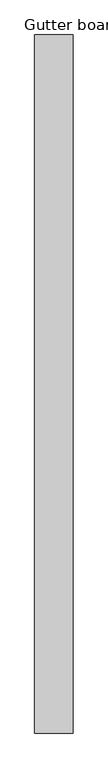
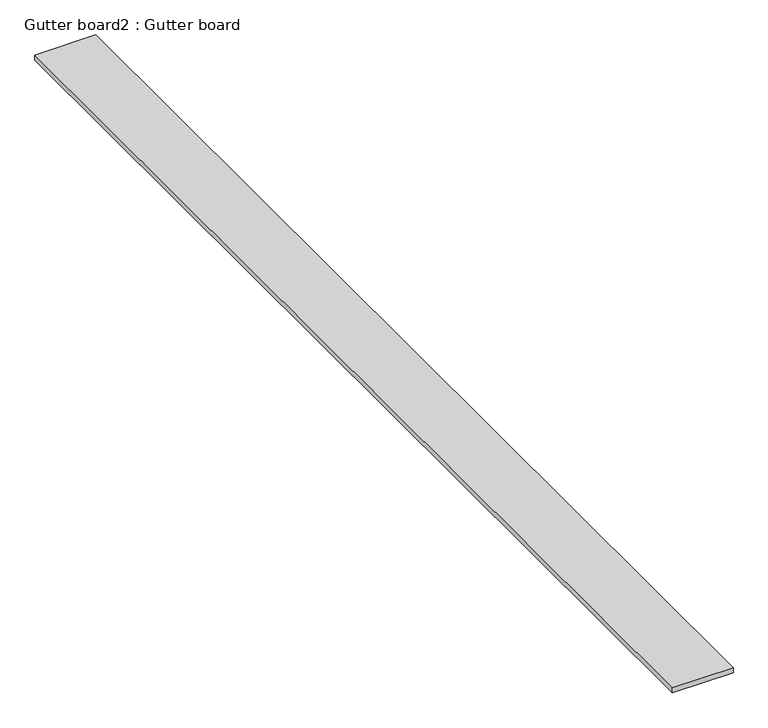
"""IFC4 building model written with IfcOpenShell, lengths in millimetres: proxy geometry, Gutter board2 : Gutter board."""

from ifc_helpers import new_model, si_unit, frame, origin, place, context, project, spatial, polyline, outline, extrude, source, transform, mapped, element, save


def gutter_board2_gutter_board_2d66de1e(model_context):
    return source(origin(), model_context, "Body", "SweptSolid", [
        extrude(outline(polyline([(40144.687938, -15336.9640915), (39974.687938, -15336.9640915), (39974.687938, -12246.9640915), (40144.687938, -12246.9640915), (40144.687938, -15336.9640915)])), frame((0.0, 0.0, 3784.2452806), z_axis=(0.0, 0.0, 1.0), x_axis=(1.0, 0.0, 0.0)), (0.0, 0.0, 1.0), 15.0),
    ])


if __name__ == "__main__":
    model = new_model("IFC4")
    model_context = context("Model", 3, world=origin())
    ifc_project = project(units=[si_unit("LENGTHUNIT", "METRE", prefix="MILLI")], contexts=[model_context])
    site = spatial("IfcSite", under=ifc_project)
    building = spatial("IfcBuilding", under=site)
    placement = place(None, origin())
    gutter_board2_gutter_board_shape = gutter_board2_gutter_board_2d66de1e(model_context)
    element("IfcBuildingElementProxy", 1, Name="Gutter board2 : Gutter board", ObjectType="Gutter board2 : Gutter board", at=placement, inside=building, context=model_context, shape_type="MappedRepresentation", body=[
        mapped(gutter_board2_gutter_board_shape, transform((0.0, 0.0, 0.0), x_axis=(1.0, 0.0, 0.0), y_axis=(0.0, 1.0, 0.0), z_axis=(0.0, 0.0, 1.0))),
    ])
    save(model, "model.ifc")
